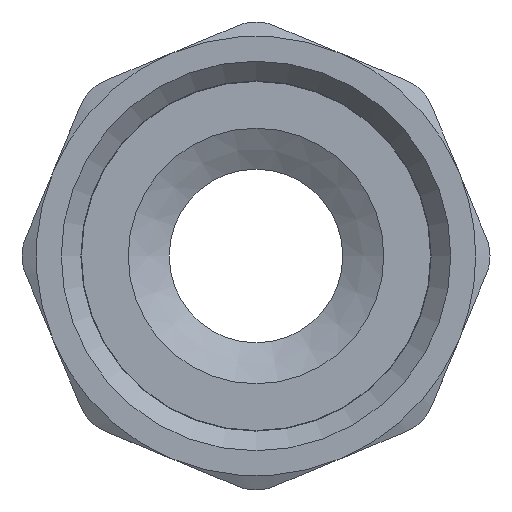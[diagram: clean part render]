
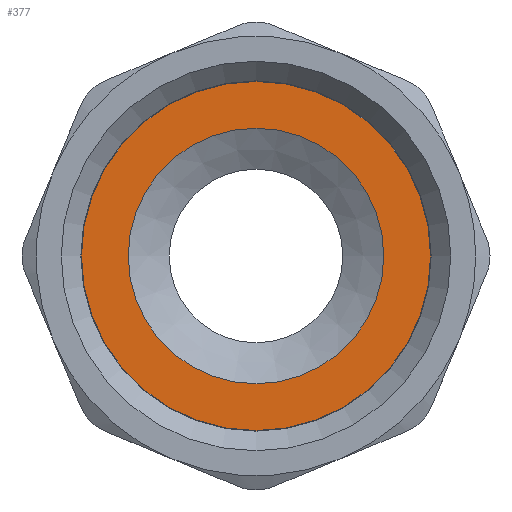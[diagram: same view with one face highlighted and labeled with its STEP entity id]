
A CAD part, front view. The second image highlights one B-rep face of the part: STEP entity #377.
In plain terms, the highlighted planar face has unit normal (0, -1, 0).
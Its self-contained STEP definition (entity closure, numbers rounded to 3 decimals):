
#377=ADVANCED_FACE('',(#1194,#1196),#1198,.F.);
#1194=FACE_BOUND('',#1195,.T.);
#1195=EDGE_LOOP('',(#1518));
#1196=FACE_BOUND('',#1197,.T.);
#1197=EDGE_LOOP('',(#1519));
#1198=PLANE('',#1199);
#1199=AXIS2_PLACEMENT_3D('',#1200,#1201,#1202);
#1200=CARTESIAN_POINT('',(0.,0.,0.));
#1201=DIRECTION('',(0.,1.,0.));
#1202=DIRECTION('',(-1.,0.,0.));
#1518=ORIENTED_EDGE('',*,*,#1670,.F.);
#1519=ORIENTED_EDGE('',*,*,#1671,.T.);
#1670=EDGE_CURVE('',#1934,#1934,#1935,.T.);
#1671=EDGE_CURVE('',#1936,#1936,#1937,.T.);
#1934=VERTEX_POINT('',#3921);
#1935=CIRCLE('',#3922,15.1);
#1936=VERTEX_POINT('',#3926);
#1937=CIRCLE('',#3927,11.05);
#3921=CARTESIAN_POINT('',(-15.1,0.,0.));
#3922=AXIS2_PLACEMENT_3D('',#3923,#3924,#3925);
#3923=CARTESIAN_POINT('',(0.,0.,0.));
#3924=DIRECTION('',(0.,1.,0.));
#3925=DIRECTION('',(-1.,0.,0.));
#3926=CARTESIAN_POINT('',(-11.05,0.,0.));
#3927=AXIS2_PLACEMENT_3D('',#3928,#3929,#3930);
#3928=CARTESIAN_POINT('',(0.,0.,0.));
#3929=DIRECTION('',(0.,1.,0.));
#3930=DIRECTION('',(-1.,0.,0.));
